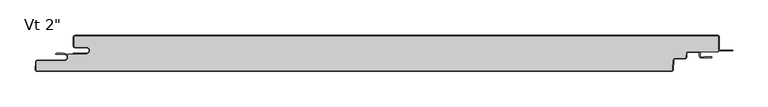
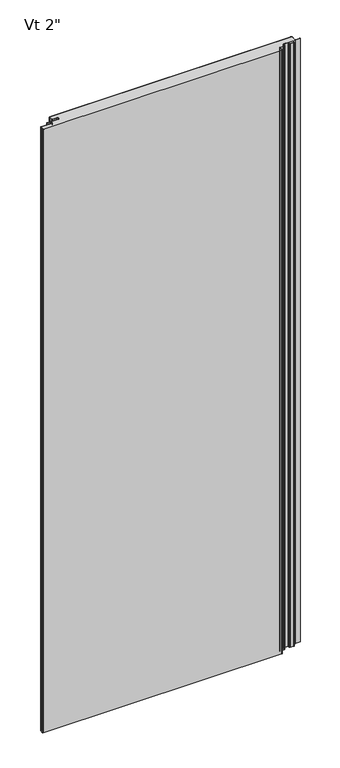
"""IFC4 building model written with IfcOpenShell, lengths in millimetres: plate geometry."""

from ifc_helpers import new_model, si_unit, point, frame, frame_2d, origin, origin_with_axes, place, context, project, spatial, polyline, circle_curve, ellipse_curve, trimmed, segment, composite_curve, outline, extrude, source, transform, mapped, element, save
from ifc_brep_helpers import plane_surface, cylinder_surface, revolved_surface, extruded_surface, advanced_brep


def plate_ffddabbd(model_context):
    return source(origin(), model_context, "Body", "SolidModel", [
        extrude(outline(composite_curve([segment(trimmed(circle_curve(frame_2d((412.1683456, -25.4)), 2.5875), [point((412.1683456, -22.8125))], [point((409.5843916, -25.2645807))], True, "CARTESIAN"), True, "CONTINUOUS"), segment(polyline([(409.5843916, -25.2645807), (409.2823154, -31.028539)]), True, "CONTINUOUS"), segment(trimmed(circle_curve(frame_2d((407.9029583, -30.95625)), 1.38125), [point((409.2823154, -31.028539))], [point((407.9029583, -32.3375))], False, "CARTESIAN"), True, "CONTINUOUS"), segment(polyline([(407.9029583, -32.3375), (393.7323845, -32.3375)]), True, "CONTINUOUS"), segment(trimmed(circle_curve(frame_2d((393.7323845, -34.925)), 2.5875), [point((393.7323845, -32.3375))], [point((391.1484306, -34.7895807))], True, "CARTESIAN"), True, "CONTINUOUS"), segment(polyline([(391.1484306, -34.7895807), (390.4303676, -48.491039)]), True, "CONTINUOUS"), segment(trimmed(circle_curve(frame_2d((389.0510105, -48.41875)), 1.38125), [point((390.4303676, -48.491039))], [point((389.0510105, -49.8))], False, "CARTESIAN"), True, "CONTINUOUS"), segment(polyline([(389.0510105, -49.8), (-507.8656862, -49.8)]), True, "CONTINUOUS"), segment(trimmed(circle_curve(frame_2d((-507.8656862, -48.41875)), 1.38125), [point((-507.8656862, -49.8))], [point((-509.2450433, -48.346461))], False, "CARTESIAN"), True, "CONTINUOUS"), segment(polyline([(-509.2450433, -48.346461), (-508.6626618, -37.233961)]), True, "CONTINUOUS"), segment(trimmed(circle_curve(frame_2d((-507.2833048, -37.30625)), 1.38125), [point((-508.6626618, -37.233961))], [point((-507.2833048, -35.925))], False, "CARTESIAN"), True, "CONTINUOUS"), segment(polyline([(-507.2833048, -35.925), (-469.1000002, -35.925)]), True, "CONTINUOUS"), segment(trimmed(circle_curve(frame_2d((-469.1000002, -30.95625)), 4.96875), [point((-469.1000002, -35.925))], [point((-464.1312502, -30.95625))], True, "CARTESIAN"), True, "CONTINUOUS"), segment(polyline([(-464.1312502, -30.95625), (-464.1312502, -26.4), (-438.1437502, -26.4)]), True, "CONTINUOUS"), segment(trimmed(circle_curve(frame_2d((-438.1437502, -21.43125)), 4.96875), [point((-438.1437502, -26.4))], [point((-438.1437502, -16.4625))], True, "CARTESIAN"), True, "CONTINUOUS"), segment(polyline([(-438.1437502, -16.4625), (-454.0187502, -16.4625)]), True, "CONTINUOUS"), segment(trimmed(circle_curve(frame_2d((-454.0187502, -15.08125)), 1.38125), [point((-454.0187502, -16.4625))], [point((-455.4000002, -15.08125))], False, "CARTESIAN"), True, "CONTINUOUS"), segment(polyline([(-455.4000002, -15.08125), (-455.4000002, -2.38125)]), True, "CONTINUOUS"), segment(trimmed(circle_curve(frame_2d((-454.0187502, -2.38125)), 1.38125), [point((-455.4000002, -2.38125))], [point((-454.0187502, -1.0))], False, "CARTESIAN"), True, "CONTINUOUS"), segment(polyline([(-454.0187502, -1.0), (454.0312498, -1.0)]), True, "CONTINUOUS"), segment(trimmed(circle_curve(frame_2d((454.0312498, -2.38125)), 1.38125), [point((454.0312498, -1.0))], [point((455.4124998, -2.38125))], False, "CARTESIAN"), True, "CONTINUOUS"), segment(polyline([(455.4124998, -2.38125), (455.4124998, -22.8125), (412.1683456, -22.8125)]), True, "CONTINUOUS")], self_intersect=False)), origin_with_axes(), (0.0, 0.0, 1.0), 2400.0),
        extrude(outline(composite_curve([segment(polyline([(-456.4000002, -25.4), (-438.1437502, -25.4)]), True, "CONTINUOUS"), segment(trimmed(circle_curve(frame_2d((-438.1437502, -21.43125)), 3.96875), [point((-438.1437502, -25.4))], [point((-438.1437502, -17.4625))], True, "CARTESIAN"), True, "CONTINUOUS"), segment(polyline([(-438.1437502, -17.4625), (-454.0187502, -17.4625)]), True, "CONTINUOUS"), segment(trimmed(circle_curve(frame_2d((-454.0187502, -15.08125)), 2.38125), [point((-454.0187502, -17.4625))], [point((-456.4000002, -15.08125))], False, "CARTESIAN"), True, "CONTINUOUS"), segment(polyline([(-456.4000002, -15.08125), (-456.4000002, -2.38125)]), True, "CONTINUOUS"), segment(trimmed(circle_curve(frame_2d((-454.0187502, -2.38125)), 2.38125), [point((-456.4000002, -2.38125))], [point((-454.0187502, 0.0))], False, "CARTESIAN"), True, "CONTINUOUS"), segment(polyline([(-454.0187502, 0.0), (454.0312498, 0.0)]), True, "CONTINUOUS"), segment(trimmed(circle_curve(frame_2d((454.0312498, -2.38125)), 2.38125), [point((454.0312498, 0.0))], [point((456.4124998, -2.38125))], False, "CARTESIAN"), True, "CONTINUOUS"), segment(polyline([(456.4124998, -2.38125), (456.4124998, -19.446875)]), True, "CONTINUOUS"), segment(trimmed(circle_curve(frame_2d((457.9999998, -19.446875)), 1.5875), [point((456.4124998, -19.446875))], [point((457.9999998, -21.034375))], True, "CARTESIAN"), True, "CONTINUOUS"), segment(polyline([(457.9999998, -21.034375), (475.4624998, -21.034375), (475.4624998, -22.034375), (457.9999998, -22.034375)]), True, "CONTINUOUS"), segment(trimmed(circle_curve(frame_2d((457.9999998, -19.446875)), 2.5875), [point((457.9999998, -22.034375))], [point((455.4124998, -19.446875))], False, "CARTESIAN"), True, "CONTINUOUS"), segment(polyline([(455.4124998, -19.446875), (455.4124998, -2.38125)]), True, "CONTINUOUS"), segment(trimmed(circle_curve(frame_2d((454.0312498, -2.38125)), 1.38125), [point((455.4124998, -2.38125))], [point((454.0312498, -1.0))], True, "CARTESIAN"), True, "CONTINUOUS"), segment(polyline([(454.0312498, -1.0), (-454.0187502, -1.0)]), True, "CONTINUOUS"), segment(trimmed(circle_curve(frame_2d((-454.0187502, -2.38125)), 1.38125), [point((-454.0187502, -1.0))], [point((-455.4000002, -2.38125))], True, "CARTESIAN"), True, "CONTINUOUS"), segment(polyline([(-455.4000002, -2.38125), (-455.4000002, -15.08125)]), True, "CONTINUOUS"), segment(trimmed(circle_curve(frame_2d((-454.0187502, -15.08125)), 1.38125), [point((-455.4000002, -15.08125))], [point((-454.0187502, -16.4625))], True, "CARTESIAN"), True, "CONTINUOUS"), segment(polyline([(-454.0187502, -16.4625), (-438.1437502, -16.4625)]), True, "CONTINUOUS"), segment(trimmed(circle_curve(frame_2d((-438.1437502, -21.43125)), 4.96875), [point((-438.1437502, -16.4625))], [point((-438.1437502, -26.4))], False, "CARTESIAN"), True, "CONTINUOUS"), segment(polyline([(-438.1437502, -26.4), (-456.4000002, -26.4), (-456.4000002, -25.4)]), True, "CONTINUOUS")], self_intersect=False)), origin_with_axes(), (0.0, 0.0, 1.0), 2400.0),
        advanced_brep(
        [(-480.4252051, -25.4, 2400.0), (-480.4252051, -26.9875, 2400.0), (-469.1142676, -26.9875, 2400.0), (-469.1142676, -34.925, 2400.0), (-507.2975722, -34.925, 2400.0), (-509.6755588, -37.181625, 2400.0), (-510.2579402, -48.294125, 2400.0), (-507.8799537, -50.8, 2400.0), (389.0510105, -50.8, 2400.0), (391.4289971, -48.543375, 2400.0), (392.1470601, -34.8419167, 2400.0), (393.7323845, -33.3375, 2400.0), (407.8886909, -33.3375, 2400.0), (410.2666775, -31.080875, 2400.0), (410.5687537, -25.3169167, 2400.0), (412.1540781, -23.8125, 2400.0), (427.0294824, -23.8125, 2400.0), (428.6169824, -25.4, 2400.0), (428.6169824, -29.5671875, 2400.0), (430.9982324, -31.9484375, 2400.0), (445.489853, -31.9484375, 2400.0), (445.489853, -30.1546875, 2400.0), (435.7607324, -30.1546875, 2400.0), (435.7607324, -30.9484375, 2400.0), (430.9982324, -30.9484375, 2400.0), (429.6169824, -29.5671875, 2400.0), (429.6169824, -25.4, 2400.0), (427.0294824, -22.8125, 2400.0), (412.1540781, -22.8125, 2400.0), (409.5701242, -25.2645807, 2400.0), (409.2680479, -31.028539, 2400.0), (407.8886909, -32.3375, 2400.0), (393.7323845, -32.3375, 2400.0), (391.1484306, -34.7895807, 2400.0), (390.4303676, -48.491039, 2400.0), (389.0510105, -49.8, 2400.0), (-507.8799537, -49.8, 2400.0), (-509.2593107, -48.346461, 2400.0), (-508.6769293, -37.233961, 2400.0), (-507.2975722, -35.925, 2400.0), (-469.1142676, -35.925, 2400.0), (-469.1142676, -25.9875, 2400.0), (-470.7017676, -26.19375, 2400.0), (-470.7017676, -25.4, 2400.0), (-480.4252051, -25.4, 0.0), (-470.7017676, -25.4, 0.0), (-470.7017676, -26.19375, 0.0), (-469.1142676, -25.9875, 0.0), (-469.1142676, -35.925, 0.0), (-507.2975722, -35.925, 0.0), (-508.6769293, -37.233961, 0.0), (-509.2593107, -48.346461, 0.0), (-507.8799537, -49.8, 0.0), (389.0510105, -49.8, 0.0), (390.4303676, -48.491039, 0.0), (391.1484306, -34.7895807, 0.0), (393.7323845, -32.3375, 0.0), (407.8886909, -32.3375, 0.0), (409.2680479, -31.028539, 0.0), (409.5701242, -25.2645807, 0.0), (412.1540781, -22.8125, 0.0), (427.0294824, -22.8125, 0.0), (429.6169824, -25.4, 0.0), (429.6169824, -29.5671875, 0.0), (430.9982324, -30.9484375, 0.0), (435.7607324, -30.9484375, 0.0), (435.7607324, -30.1546875, 0.0), (445.489853, -30.1546875, 0.0), (445.489853, -31.9484375, 0.0), (430.9982324, -31.9484375, 0.0), (428.6169824, -29.5671875, 0.0), (428.6169824, -25.4, 0.0), (427.0294824, -23.8125, 0.0), (412.1540781, -23.8125, 0.0), (410.5687537, -25.3169167, 0.0), (410.2666775, -31.080875, 0.0), (407.8886909, -33.3375, 0.0), (393.7323845, -33.3375, 0.0), (392.1470601, -34.8419167, 0.0), (391.4289971, -48.543375, 0.0), (389.0510105, -50.8, 0.0), (-507.8799537, -50.8, 0.0), (-510.2579402, -48.294125, 0.0), (-509.6755588, -37.181625, 0.0), (-507.2975722, -34.925, 0.0), (-469.1142676, -34.925, 0.0), (-469.1142676, -26.9875, 0.0), (-480.4252051, -26.9875, 0.0)],
        [
            (0, 1, circle_curve(frame((-480.4252051, -26.19375, 2400.0), z_axis=(0.0, 0.0, 1.0), x_axis=(-1.0, 0.0, 0.0)), 0.79375)),
            (1, 2),
            (2, 3, circle_curve(frame((-469.1142676, -30.95625, 2400.0), z_axis=(0.0, 0.0, -1.0), x_axis=(-1.0, 0.0, 0.0)), 3.96875)),
            (3, 4),
            (4, 5, circle_curve(frame((-507.2975722, -37.30625, 2400.0), z_axis=(0.0, 0.0, 1.0), x_axis=(-1.0, 0.0, 0.0)), 2.38125)),
            (5, 6),
            (6, 7, circle_curve(frame((-507.8799537, -48.41875, 2400.0), z_axis=(0.0, 0.0, 1.0), x_axis=(-1.0, 0.0, 0.0)), 2.38125)),
            (7, 8),
            (8, 9, circle_curve(frame((389.0510105, -48.41875, 2400.0), z_axis=(0.0, 0.0, 1.0), x_axis=(-1.0, 0.0, 0.0)), 2.38125)),
            (9, 10),
            (10, 11, circle_curve(frame((393.7323845, -34.925, 2400.0), z_axis=(0.0, 0.0, -1.0), x_axis=(-1.0, 0.0, 0.0)), 1.5875)),
            (11, 12),
            (12, 13, circle_curve(frame((407.8886909, -30.95625, 2400.0), z_axis=(0.0, 0.0, 1.0), x_axis=(-1.0, 0.0, 0.0)), 2.38125)),
            (13, 14),
            (14, 15, circle_curve(frame((412.1540781, -25.4, 2400.0), z_axis=(0.0, 0.0, -1.0), x_axis=(-1.0, 0.0, 0.0)), 1.5875)),
            (15, 16),
            (16, 17, circle_curve(frame((427.0294824, -25.4, 2400.0), z_axis=(0.0, 0.0, -1.0), x_axis=(-1.0, 0.0, 0.0)), 1.5875)),
            (17, 18),
            (18, 19, circle_curve(frame((430.9982324, -29.5671875, 2400.0), z_axis=(0.0, 0.0, 1.0), x_axis=(-1.0, 0.0, 0.0)), 2.38125)),
            (19, 20),
            (20, 21, ellipse_curve(frame((445.489853, -31.0515625, 2400.0), z_axis=(0.0, 0.0, 1.0), x_axis=(0.0, 1.0, 0.0)), 0.896875, 0.7852275)),
            (21, 22),
            (22, 23),
            (23, 24),
            (24, 25, circle_curve(frame((430.9982324, -29.5671875, 2400.0), z_axis=(0.0, 0.0, -1.0), x_axis=(-1.0, 0.0, 0.0)), 1.38125)),
            (25, 26),
            (26, 27, circle_curve(frame((427.0294824, -25.4, 2400.0), z_axis=(0.0, 0.0, 1.0), x_axis=(-1.0, 0.0, 0.0)), 2.5875)),
            (27, 28),
            (28, 29, circle_curve(frame((412.1540781, -25.4, 2400.0), z_axis=(0.0, 0.0, 1.0), x_axis=(-1.0, 0.0, 0.0)), 2.5875)),
            (29, 30),
            (30, 31, circle_curve(frame((407.8886909, -30.95625, 2400.0), z_axis=(0.0, 0.0, -1.0), x_axis=(-1.0, 0.0, 0.0)), 1.38125)),
            (31, 32),
            (32, 33, circle_curve(frame((393.7323845, -34.925, 2400.0), z_axis=(0.0, 0.0, 1.0), x_axis=(-1.0, 0.0, 0.0)), 2.5875)),
            (33, 34),
            (34, 35, circle_curve(frame((389.0510105, -48.41875, 2400.0), z_axis=(0.0, 0.0, -1.0), x_axis=(-1.0, 0.0, 0.0)), 1.38125)),
            (35, 36),
            (36, 37, circle_curve(frame((-507.8799537, -48.41875, 2400.0), z_axis=(0.0, 0.0, -1.0), x_axis=(-1.0, 0.0, 0.0)), 1.38125)),
            (37, 38),
            (38, 39, circle_curve(frame((-507.2975722, -37.30625, 2400.0), z_axis=(0.0, 0.0, -1.0), x_axis=(-1.0, 0.0, 0.0)), 1.38125)),
            (39, 40),
            (40, 41, circle_curve(frame((-469.1142676, -30.95625, 2400.0), z_axis=(0.0, 0.0, 1.0), x_axis=(-1.0, 0.0, 0.0)), 4.96875)),
            (41, 42),
            (42, 43),
            (43, 0),
            (44, 45),
            (45, 46),
            (46, 47),
            (47, 48, circle_curve(frame((-469.1142676, -30.95625, 0.0), z_axis=(0.0, 0.0, -1.0), x_axis=(-1.0, 0.0, 0.0)), 4.96875)),
            (48, 49),
            (49, 50, circle_curve(frame((-507.2975722, -37.30625, 0.0), z_axis=(0.0, 0.0, 1.0), x_axis=(-1.0, 0.0, 0.0)), 1.38125)),
            (50, 51),
            (51, 52, circle_curve(frame((-507.8799537, -48.41875, 0.0), z_axis=(0.0, 0.0, 1.0), x_axis=(-1.0, 0.0, 0.0)), 1.38125)),
            (52, 53),
            (53, 54, circle_curve(frame((389.0510105, -48.41875, 0.0), z_axis=(0.0, 0.0, 1.0), x_axis=(-1.0, 0.0, 0.0)), 1.38125)),
            (54, 55),
            (55, 56, circle_curve(frame((393.7323845, -34.925, 0.0), z_axis=(0.0, 0.0, -1.0), x_axis=(-1.0, 0.0, 0.0)), 2.5875)),
            (56, 57),
            (57, 58, circle_curve(frame((407.8886909, -30.95625, 0.0), z_axis=(0.0, 0.0, 1.0), x_axis=(-1.0, 0.0, 0.0)), 1.38125)),
            (58, 59),
            (59, 60, circle_curve(frame((412.1540781, -25.4, 0.0), z_axis=(0.0, 0.0, -1.0), x_axis=(-1.0, 0.0, 0.0)), 2.5875)),
            (60, 61),
            (61, 62, circle_curve(frame((427.0294824, -25.4, 0.0), z_axis=(0.0, 0.0, -1.0), x_axis=(-1.0, 0.0, 0.0)), 2.5875)),
            (62, 63),
            (63, 64, circle_curve(frame((430.9982324, -29.5671875, 0.0), z_axis=(0.0, 0.0, 1.0), x_axis=(-1.0, 0.0, 0.0)), 1.38125)),
            (64, 65),
            (65, 66),
            (66, 67),
            (67, 68, ellipse_curve(frame((445.489853, -31.0515625, 0.0), z_axis=(0.0, 0.0, -1.0), x_axis=(0.0, 1.0, 0.0)), 0.896875, 0.7852275)),
            (68, 69),
            (69, 70, circle_curve(frame((430.9982324, -29.5671875, 0.0), z_axis=(0.0, 0.0, -1.0), x_axis=(-1.0, 0.0, 0.0)), 2.38125)),
            (70, 71),
            (71, 72, circle_curve(frame((427.0294824, -25.4, 0.0), z_axis=(0.0, 0.0, 1.0), x_axis=(-1.0, 0.0, 0.0)), 1.5875)),
            (72, 73),
            (73, 74, circle_curve(frame((412.1540781, -25.4, 0.0), z_axis=(0.0, 0.0, 1.0), x_axis=(-1.0, 0.0, 0.0)), 1.5875)),
            (74, 75),
            (75, 76, circle_curve(frame((407.8886909, -30.95625, 0.0), z_axis=(0.0, 0.0, -1.0), x_axis=(-1.0, 0.0, 0.0)), 2.38125)),
            (76, 77),
            (77, 78, circle_curve(frame((393.7323845, -34.925, 0.0), z_axis=(0.0, 0.0, 1.0), x_axis=(-1.0, 0.0, 0.0)), 1.5875)),
            (78, 79),
            (79, 80, circle_curve(frame((389.0510105, -48.41875, 0.0), z_axis=(0.0, 0.0, -1.0), x_axis=(-1.0, 0.0, 0.0)), 2.38125)),
            (80, 81),
            (81, 82, circle_curve(frame((-507.8799537, -48.41875, 0.0), z_axis=(0.0, 0.0, -1.0), x_axis=(-1.0, 0.0, 0.0)), 2.38125)),
            (82, 83),
            (83, 84, circle_curve(frame((-507.2975722, -37.30625, 0.0), z_axis=(0.0, 0.0, -1.0), x_axis=(-1.0, 0.0, 0.0)), 2.38125)),
            (84, 85),
            (85, 86, circle_curve(frame((-469.1142676, -30.95625, 0.0), z_axis=(0.0, 0.0, 1.0), x_axis=(-1.0, 0.0, 0.0)), 3.96875)),
            (86, 87),
            (87, 44, circle_curve(frame((-480.4252051, -26.19375, 0.0), z_axis=(0.0, 0.0, -1.0), x_axis=(-1.0, 0.0, 0.0)), 0.79375)),
            (43, 45),
            (44, 0),
            (87, 1),
            (86, 2),
            (85, 3),
            (84, 4),
            (83, 5),
            (82, 6),
            (81, 7),
            (80, 8),
            (79, 9),
            (78, 10),
            (77, 11),
            (76, 12),
            (75, 13),
            (74, 14),
            (73, 15),
            (38, 50),
            (49, 39),
            (37, 51),
            (36, 52),
            (35, 53),
            (34, 54),
            (33, 55),
            (32, 56),
            (31, 57),
            (30, 58),
            (29, 59),
            (28, 60),
            (23, 65),
            (64, 24),
            (63, 25),
            (62, 26),
            (72, 16),
            (71, 17),
            (70, 18),
            (69, 19),
            (68, 20),
            (27, 61),
            (48, 40),
            (47, 41),
            (42, 46),
            (22, 66),
            (21, 67),
        ],
        [
            plane_surface(frame((0.0062498, -50.8, 2400.0), z_axis=(0.0, 0.0, 1.0), x_axis=(0.0, -1.0, 0.0))),
            plane_surface(frame((0.0062498, -50.8, 0.0), z_axis=(0.0, 0.0, -1.0), x_axis=(0.0, -1.0, 0.0))),
            plane_surface(frame((-480.4252051, -25.4, 2400.0), z_axis=(0.0, 1.0, 0.0), x_axis=(0.0, 0.0, -1.0))),
            cylinder_surface(frame((-480.4252051, -26.19375, 2400.0), z_axis=(0.0, 0.0, 1.0), x_axis=(-1.0, 0.0, 0.0)), 0.79375),
            plane_surface(frame((-469.1142676, -26.9875, 2400.0), z_axis=(0.0, -1.0, 0.0), x_axis=(0.0, 0.0, -1.0))),
            revolved_surface(polyline([(-473.0830176, -30.95625, 0.0), (-473.0830176, -30.95625, 2400.0)]), (-469.1142676, -30.95625, 2400.0), (0.0, 0.0, -1.0)),
            plane_surface(frame((-507.2975722, -34.925, 2400.0), z_axis=(0.0, 1.0, 0.0), x_axis=(0.0, 0.0, -1.0))),
            cylinder_surface(frame((-507.2975722, -37.30625, 2400.0), z_axis=(0.0, 0.0, 1.0), x_axis=(-1.0, 0.0, 0.0)), 2.38125),
            plane_surface(frame((-510.2579402, -48.294125, 2400.0), z_axis=(-0.9986295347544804, 0.05233595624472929, 0.0), x_axis=(0.0, 0.0, -1.0))),
            cylinder_surface(frame((-507.8799537, -48.41875, 2400.0), z_axis=(0.0, 0.0, 1.0), x_axis=(-1.0, 0.0, 0.0)), 2.38125),
            plane_surface(frame((389.0510105, -50.8, 2400.0), z_axis=(0.0, -1.0, 0.0), x_axis=(0.0, 0.0, -1.0))),
            cylinder_surface(frame((389.0510105, -48.41875, 2400.0), z_axis=(0.0, 0.0, 1.0), x_axis=(-1.0, 0.0, 0.0)), 2.38125),
            plane_surface(frame((392.1470601, -34.8419167, 2400.0), z_axis=(0.9986295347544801, -0.05233595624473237, 0.0), x_axis=(0.0, 0.0, -1.0))),
            revolved_surface(polyline([(392.14488450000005, -34.925, 0.0), (392.14488450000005, -34.925, 2400.0)]), (393.7323845, -34.925, 2400.0), (0.0, 0.0, -1.0)),
            plane_surface(frame((407.8886909, -33.3375, 2400.0), z_axis=(0.0, -1.0, 0.0), x_axis=(0.0, 0.0, -1.0))),
            cylinder_surface(frame((407.8886909, -30.95625, 2400.0), z_axis=(0.0, 0.0, 1.0), x_axis=(-1.0, 0.0, 0.0)), 2.38125),
            plane_surface(frame((410.5687537, -25.3169167, 2400.0), z_axis=(0.9986295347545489, -0.05233595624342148, 0.0), x_axis=(0.0, 0.0, -1.0))),
            revolved_surface(polyline([(410.5665781, -25.4, 0.0), (410.5665781, -25.4, 2400.0)]), (412.1540781, -25.4, 2400.0), (0.0, 0.0, -1.0)),
            revolved_surface(polyline([(-508.6788222, -37.30625, 0.0), (-508.6788222, -37.30625, 2400.0)]), (-507.2975722, -37.30625, 2400.0), (0.0, 0.0, -1.0)),
            plane_surface(frame((-508.6769293, -37.233961, 2400.0), z_axis=(0.9986295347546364, -0.05233595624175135, 0.0), x_axis=(0.0, 0.0, -1.0))),
            revolved_surface(polyline([(-509.2612037, -48.41875, 0.0), (-509.2612037, -48.41875, 2400.0)]), (-507.8799537, -48.41875, 2400.0), (0.0, 0.0, -1.0)),
            plane_surface(frame((-507.8799537, -49.8, 2400.0), z_axis=(0.0, 1.0, 0.0), x_axis=(0.0, 0.0, -1.0))),
            revolved_surface(polyline([(387.6697605, -48.41875, 0.0), (387.6697605, -48.41875, 2400.0)]), (389.0510105, -48.41875, 2400.0), (0.0, 0.0, -1.0)),
            plane_surface(frame((390.4303676, -48.491039, 2400.0), z_axis=(-0.9986295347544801, 0.05233595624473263, 0.0), x_axis=(0.0, 0.0, -1.0))),
            cylinder_surface(frame((393.7323845, -34.925, 2400.0), z_axis=(0.0, 0.0, 1.0), x_axis=(-1.0, 0.0, 0.0)), 2.5875),
            plane_surface(frame((393.7323845, -32.3375, 2400.0), z_axis=(0.0, 1.0, 0.0), x_axis=(0.0, 0.0, -1.0))),
            revolved_surface(polyline([(406.50744089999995, -30.95625, 0.0), (406.50744089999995, -30.95625, 2400.0)]), (407.8886909, -30.95625, 2400.0), (0.0, 0.0, -1.0)),
            plane_surface(frame((409.2680479, -31.028539, 2400.0), z_axis=(-0.998629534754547, 0.05233595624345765, 0.0), x_axis=(0.0, 0.0, -1.0))),
            cylinder_surface(frame((412.1540781, -25.4, 2400.0), z_axis=(0.0, 0.0, 1.0), x_axis=(-1.0, 0.0, 0.0)), 2.5875),
            plane_surface(frame((430.9982324, -30.9484375, 2400.0), z_axis=(0.0, 1.0, 0.0), x_axis=(0.0, 0.0, -1.0))),
            revolved_surface(polyline([(429.6169824, -29.5671875, 0.0), (429.6169824, -29.5671875, 2400.0)]), (430.9982324, -29.5671875, 2400.0), (0.0, 0.0, -1.0)),
            plane_surface(frame((429.6169824, -25.4, 2400.0), z_axis=(1.0, 0.0, 0.0), x_axis=(0.0, 0.0, -1.0))),
            plane_surface(frame((427.0294824, -23.8125, 2400.0), z_axis=(0.0, -1.0, 0.0), x_axis=(0.0, 0.0, -1.0))),
            revolved_surface(polyline([(425.44198240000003, -25.4, 0.0), (425.44198240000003, -25.4, 2400.0)]), (427.0294824, -25.4, 2400.0), (0.0, 0.0, -1.0)),
            plane_surface(frame((428.6169824, -29.5671875, 2400.0), z_axis=(-1.0, 0.0, 0.0), x_axis=(0.0, 0.0, -1.0))),
            cylinder_surface(frame((430.9982324, -29.5671875, 2400.0), z_axis=(0.0, 0.0, 1.0), x_axis=(-1.0, 0.0, 0.0)), 2.38125),
            plane_surface(frame((445.489853, -31.9484375, 2400.0), z_axis=(0.0, -1.0, 0.0), x_axis=(0.0, 0.0, -1.0))),
            plane_surface(frame((412.1540781, -22.8125, 2400.0), z_axis=(0.0, 1.0, 0.0), x_axis=(0.0, 0.0, -1.0))),
            cylinder_surface(frame((427.0294824, -25.4, 2400.0), z_axis=(0.0, 0.0, 1.0), x_axis=(-1.0, 0.0, 0.0)), 2.5875),
            plane_surface(frame((-469.1142676, -35.925, 2400.0), z_axis=(0.0, -1.0, 0.0), x_axis=(0.0, 0.0, -1.0))),
            cylinder_surface(frame((-469.1142676, -30.95625, 2400.0), z_axis=(0.0, 0.0, 1.0), x_axis=(-1.0, 0.0, 0.0)), 4.96875),
            plane_surface(frame((-470.7017676, -25.4, 2400.0), z_axis=(1.0, 0.0, 0.0), x_axis=(0.0, 0.0, -1.0))),
            plane_surface(frame((-470.7017676, -26.19375, 2400.0), z_axis=(-0.12883844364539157, 0.9916655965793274, 0.0), x_axis=(0.0, 0.0, -1.0))),
            plane_surface(frame((435.7607324, -30.9484375, 2400.0), z_axis=(-1.0, 0.0, 0.0), x_axis=(0.0, 0.0, -1.0))),
            plane_surface(frame((435.7607324, -30.1546875, 2400.0), z_axis=(0.0, 1.0, 0.0), x_axis=(0.0, 0.0, -1.0))),
            extruded_surface(trimmed(ellipse_curve(frame((445.489853, -31.0515625, 2400.0), z_axis=(0.0, 0.0, -1.0), x_axis=(0.0, 1.0, 0.0)), 0.896875, 0.7852275), [point((445.489853, -30.1546875, 2400.0))], [point((445.489853, -31.9484375, 2400.0))], True, "CARTESIAN"), (0.0, 0.0, -2400.0), 2400.0),
        ],
        [
            (0, [[1, 2, 3, 4, 5, 6, 7, 8, 9, 10, 11, 12, 13, 14, 15, 16, 17, 18, 19, 20, 21, 22, 23, 24, 25, 26, 27, 28, 29, 30, 31, 32, 33, 34, 35, 36, 37, 38, 39, 40, 41, 42, 43, 44]]),
            (1, [[45, 46, 47, 48, 49, 50, 51, 52, 53, 54, 55, 56, 57, 58, 59, 60, 61, 62, 63, 64, 65, 66, 67, 68, 69, 70, 71, 72, 73, 74, 75, 76, 77, 78, 79, 80, 81, 82, 83, 84, 85, 86, 87, 88]]),
            (2, [[89, -45, 90, -44]]),
            (3, [[-90, -88, 91, -1]]),
            (4, [[-91, -87, 92, -2]]),
            (5, [[-92, -86, 93, -3]]),
            (6, [[-93, -85, 94, -4]]),
            (7, [[-94, -84, 95, -5]]),
            (8, [[-95, -83, 96, -6]]),
            (9, [[-96, -82, 97, -7]]),
            (10, [[-97, -81, 98, -8]]),
            (11, [[-98, -80, 99, -9]]),
            (12, [[-99, -79, 100, -10]]),
            (13, [[-100, -78, 101, -11]]),
            (14, [[-101, -77, 102, -12]]),
            (15, [[-102, -76, 103, -13]]),
            (16, [[-103, -75, 104, -14]]),
            (17, [[-104, -74, 105, -15]]),
            (18, [[106, -50, 107, -39]]),
            (19, [[108, -51, -106, -38]]),
            (20, [[109, -52, -108, -37]]),
            (21, [[110, -53, -109, -36]]),
            (22, [[111, -54, -110, -35]]),
            (23, [[112, -55, -111, -34]]),
            (24, [[113, -56, -112, -33]]),
            (25, [[114, -57, -113, -32]]),
            (26, [[115, -58, -114, -31]]),
            (27, [[116, -59, -115, -30]]),
            (28, [[117, -60, -116, -29]]),
            (29, [[118, -65, 119, -24]]),
            (30, [[-119, -64, 120, -25]]),
            (31, [[-120, -63, 121, -26]]),
            (32, [[-105, -73, 122, -16]]),
            (33, [[-122, -72, 123, -17]]),
            (34, [[-123, -71, 124, -18]]),
            (35, [[-124, -70, 125, -19]]),
            (36, [[-125, -69, 126, -20]]),
            (37, [[127, -61, -117, -28]]),
            (38, [[-121, -62, -127, -27]]),
            (39, [[-107, -49, 128, -40]]),
            (40, [[-128, -48, 129, -41]]),
            (41, [[130, -46, -89, -43]]),
            (42, [[-129, -47, -130, -42]]),
            (43, [[131, -66, -118, -23]]),
            (44, [[132, -67, -131, -22]]),
            (45, [[-126, -68, -132, -21]]),
        ],
    ),
    ])


if __name__ == "__main__":
    model = new_model("IFC4")
    model_context = context("Model", 3, world=origin())
    ifc_project = project(units=[si_unit("LENGTHUNIT", "METRE", prefix="MILLI")], contexts=[model_context])
    site = spatial("IfcSite", under=ifc_project)
    building = spatial("IfcBuilding", under=site)
    placement = place(None, origin())
    plate_shape = plate_ffddabbd(model_context)
    element("IfcPlate", 1, ObjectType="KIP-36-DWHR-R19-CP-Vt-F : Vt 2\"", at=placement, inside=building, context=model_context, shape_type="MappedRepresentation", body=[
        mapped(plate_shape, transform((0.0, 0.0, 0.0), x_axis=(1.0, 0.0, 0.0), y_axis=(0.0, 1.0, 0.0), z_axis=(0.0, 0.0, 1.0))),
    ])
    save(model, "model.ifc")
